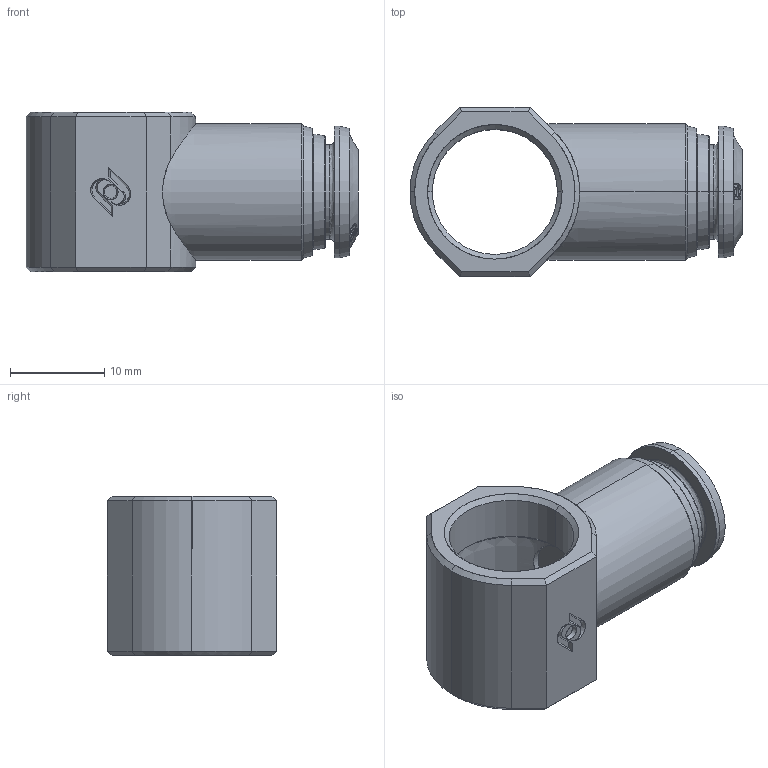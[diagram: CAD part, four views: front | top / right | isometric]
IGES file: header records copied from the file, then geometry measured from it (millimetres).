
Start section: SolidWorks IGES file using analytic representation for surfaces
Global section: file name: K:\Disegni Esecutivi\Serie 50000\ASSIEMI\50500\ASSIEMI_PIENI_50500\5050000007.IGS; native system: SolidWorks 2007; preprocessor: SolidWorks 2007; author: cad02; date: 071011.155748; units: millimetre
Bounding box: 35.3 x 18 x 17 mm (x, y, z)
Surface area: 3290.3 mm2 (no closed solid volume)
Topology: 0 solids, 0 shells, 260 faces, 2878 edges, 2875 vertices
Faces by surface type: bspline 165, revolution 95
